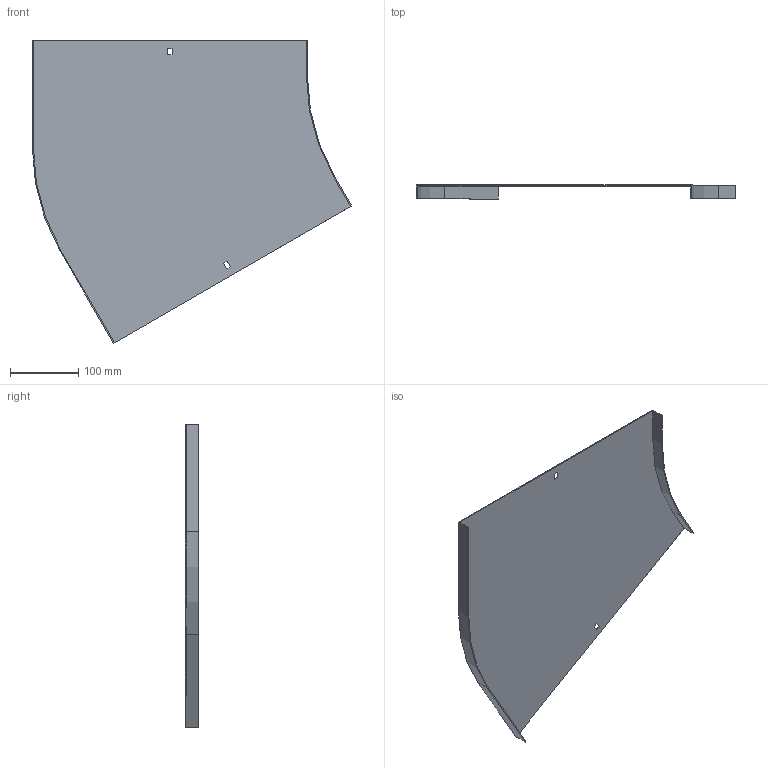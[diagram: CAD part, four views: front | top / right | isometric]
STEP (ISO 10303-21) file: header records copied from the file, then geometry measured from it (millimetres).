
FILE_DESCRIPTION (( 'STEP AP214' ), '1' );
FILE_NAME ('B2_12N3R400.step', '2025-02-21T10:49:28', ( '' ), ( '' ), 'SwSTEP 2.0', 'SolidWorks 2023', '' );
FILE_SCHEMA (( 'AUTOMOTIVE_DESIGN' ));
Length unit declared in the file: millimetre
Products named in the file (1): B2_12N3R400
Bounding box: 467.99 x 20 x 444.05 mm (x, y, z)
Volume: 242449.6 mm3; surface area: 325771.9 mm2
Topology: 1 solids, 1 shells, 26 faces, 72 edges, 48 vertices
Faces by surface type: plane 22, cylinder 4
Entity records: 855 total; most frequent: CARTESIAN_POINT 147, ORIENTED_EDGE 144, DIRECTION 134, EDGE_CURVE 72, VECTOR 64, LINE 64, VERTEX_POINT 48, AXIS2_PLACEMENT_3D 35
